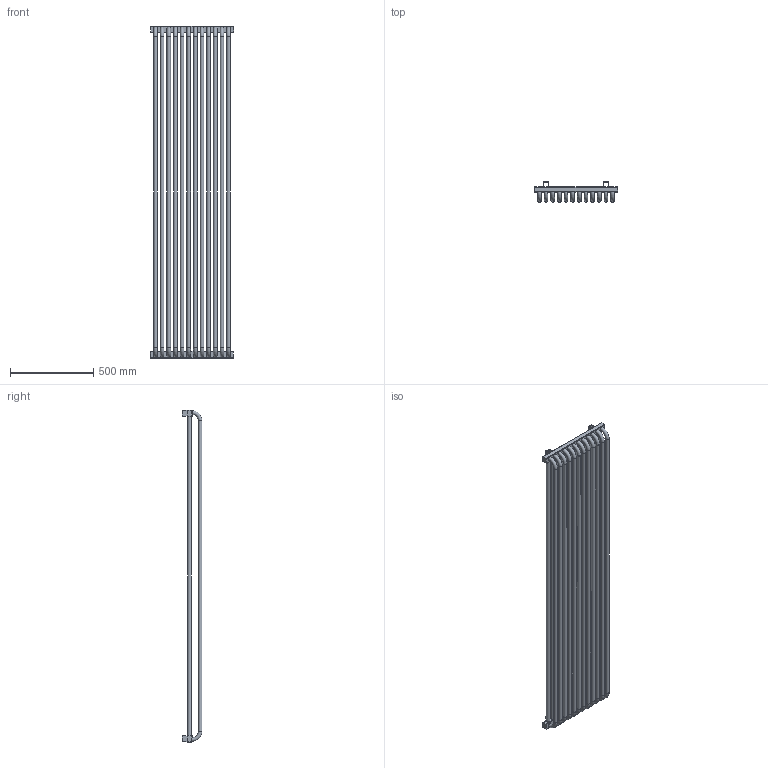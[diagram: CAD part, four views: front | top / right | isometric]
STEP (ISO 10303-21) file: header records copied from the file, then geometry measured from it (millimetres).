
FILE_DESCRIPTION((''),'2;1');
FILE_NAME('Z:\R\G\P\RGPH10 - Grzejnik Delfin\Work\Inventor\Marketing\STEP\DF-20-50-ZX.stp','2012-07-25T10:55:27',('PioRo'),(''),'Autodesk Inventor 2012','Autodesk Inventor 2012','');
FILE_SCHEMA(('AUTOMOTIVE_DESIGN { 1 0 10303 214 1 1 1 1 }'));
Length unit declared in the file: millimetre
Products named in the file (1): Część2
Bounding box: 500 x 120 x 2000 mm (x, y, z)
Volume: 19197449 mm3; surface area: 3418615.8 mm2
Topology: 5 solids, 5 shells, 222 faces, 557 edges, 342 vertices
Faces by surface type: plane 103, cylinder 79, torus 40
Full cylindrical faces by diameter (mm): 0.1 x4, 18.631 x3, 22 x24
Entity records: 8157 total; most frequent: CARTESIAN_POINT 2627, DIRECTION 1098, ORIENTED_EDGE 1004, EDGE_CURVE 502, AXIS2_PLACEMENT_3D 397, VERTEX_POINT 342, EDGE_LOOP 328, VECTOR 304
